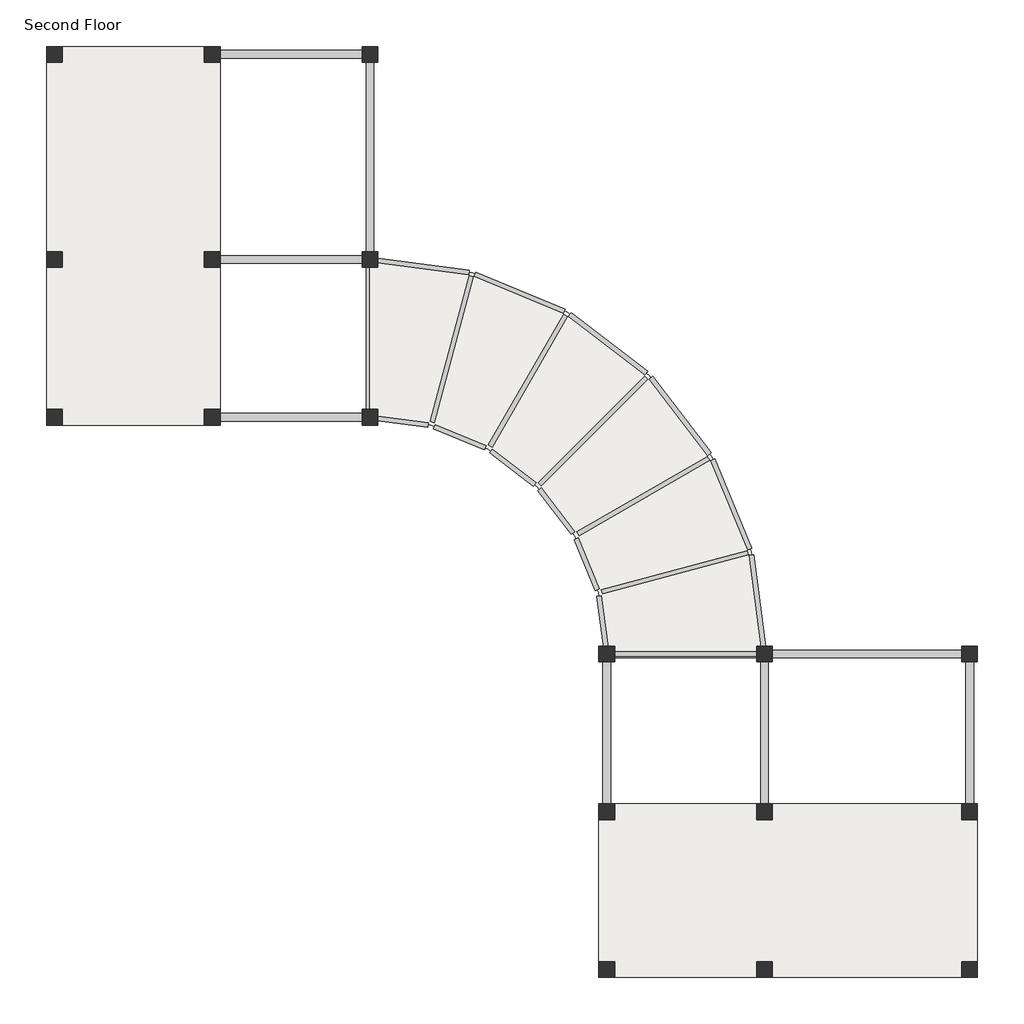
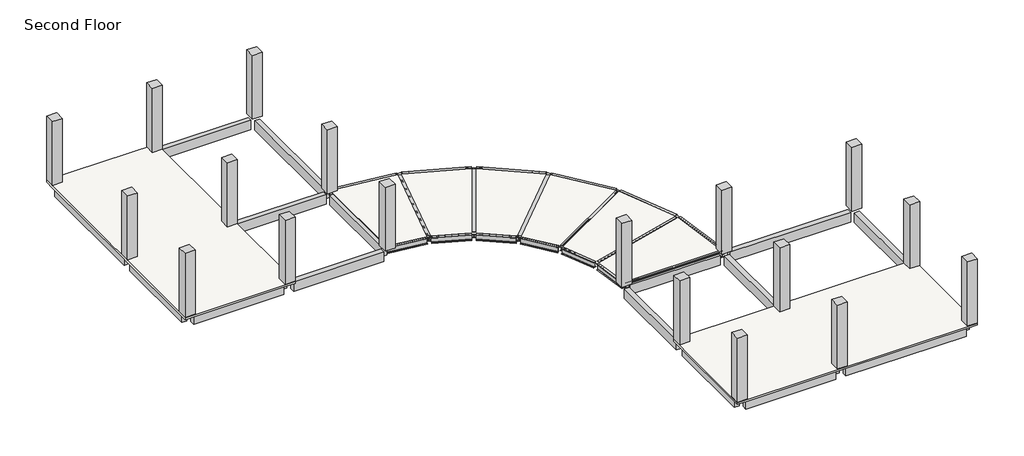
# One storey: 42 beams, 18 columns, 3 slabs.
"""IFC4 building model written with IfcOpenShell, lengths in millimetres."""

from ifc_helpers import new_model, si_unit, frame, origin, place, context, project, spatial, polyline, outline, extrude, faceted_brep, transform, mapped, element, save
from components import w_shapes_w14x30_2e673df6, w_shapes_w14x30_237460b9, w_shapes_w14x30_b3bb4f38, w_shapes_w14x30_39967a85, w_shapes_w14x30_db228dd3, w_shapes_w14x30_47131812, w_shapes_w14x30_3b95b5f1, w_shapes_w14x30_4b075543

model = new_model("IFC4")

# Units and contexts
model_context = context("Model", 3, world=origin())
ifc_project = project(units=[si_unit("LENGTHUNIT", "METRE", prefix="MILLI")], contexts=[model_context])

# Site, building, storey
site = spatial("IfcSite", under=ifc_project)
building = spatial("IfcBuilding", under=site)
storey = spatial("IfcBuildingStorey", under=building, Name="Second Floor", Elevation=3048.0)

# Beams
placement = place(None, origin())
element("IfcBeam", 1, ObjectType="Concrete-Rectangular Beam : 12 x 24", at=placement, inside=storey, context=model_context, shape_type="SweptSolid", body=[
    extrude(outline(polyline([(-28941.182411, 12026.6448777), (-28941.182411, 11721.8448777), (-34427.582411, 11721.8448777), (-34427.582411, 12026.6448777), (-28941.182411, 12026.6448777)])), frame((0.0, 0.0, 2438.4), z_axis=(0.0, 0.0, 1.0), x_axis=(1.0, 0.0, 0.0)), (0.0, 0.0, 1.0), 609.6),
])
element("IfcBeam", 2, ObjectType="Concrete-Rectangular Beam : 12 x 24", at=placement, inside=storey, context=model_context, shape_type="SweptSolid", body=[
    extrude(outline(polyline([(-35037.182411, 12026.6448777), (-35037.182411, 11721.8448777), (-40523.582411, 11721.8448777), (-40523.582411, 12026.6448777), (-35037.182411, 12026.6448777)])), frame((0.0, 0.0, 2438.4), z_axis=(0.0, 0.0, 1.0), x_axis=(1.0, 0.0, 0.0)), (0.0, 0.0, 1.0), 609.6),
])
element("IfcBeam", 3, ObjectType="Concrete-Rectangular Beam : 12 x 24", at=placement, inside=storey, context=model_context, shape_type="SweptSolid", body=[
    extrude(outline(polyline([(-28941.182411, -1994.1551223), (-28941.182411, -2298.9551223), (-34427.582411, -2298.9551223), (-34427.582411, -1994.1551223), (-28941.182411, -1994.1551223)])), frame((0.0, 0.0, 2438.4), z_axis=(0.0, 0.0, 1.0), x_axis=(1.0, 0.0, 0.0)), (0.0, 0.0, 1.0), 609.6),
])
element("IfcBeam", 4, ObjectType="Concrete-Rectangular Beam : 12 x 24", at=placement, inside=storey, context=model_context, shape_type="SweptSolid", body=[
    extrude(outline(polyline([(-35037.182411, -1994.1551223), (-35037.182411, -2298.9551223), (-40523.582411, -2298.9551223), (-40523.582411, -1994.1551223), (-35037.182411, -1994.1551223)])), frame((0.0, 0.0, 2438.4), z_axis=(0.0, 0.0, 1.0), x_axis=(1.0, 0.0, 0.0)), (0.0, 0.0, 1.0), 609.6),
])
element("IfcBeam", 5, ObjectType="Concrete-Rectangular Beam : 12 x 24", at=placement, inside=storey, context=model_context, shape_type="SweptSolid", body=[
    extrude(outline(polyline([(-28941.182411, 4101.8448777), (-28941.182411, 3797.0448777), (-34427.582411, 3797.0448777), (-34427.582411, 4101.8448777), (-28941.182411, 4101.8448777)])), frame((0.0, 0.0, 2438.4), z_axis=(0.0, 0.0, 1.0), x_axis=(1.0, 0.0, 0.0)), (0.0, 0.0, 1.0), 609.6),
])
element("IfcBeam", 6, ObjectType="Concrete-Rectangular Beam : 12 x 24", at=placement, inside=storey, context=model_context, shape_type="SweptSolid", body=[
    extrude(outline(polyline([(-35037.182411, 4101.8448777), (-35037.182411, 3797.0448777), (-40523.582411, 3797.0448777), (-40523.582411, 4101.8448777), (-35037.182411, 4101.8448777)])), frame((0.0, 0.0, 2438.4), z_axis=(0.0, 0.0, 1.0), x_axis=(1.0, 0.0, 0.0)), (0.0, 0.0, 1.0), 609.6),
])
element("IfcBeam", 7, ObjectType="Concrete-Rectangular Beam : 12 x 24", at=placement, inside=storey, context=model_context, shape_type="SweptSolid", body=[
    extrude(outline(polyline([(-28483.982411, -1841.7551223), (-28788.782411, -1841.7551223), (-28788.782411, 3644.6448777), (-28483.982411, 3644.6448777), (-28483.982411, -1841.7551223)])), frame((0.0, 0.0, 2438.4), z_axis=(0.0, 0.0, 1.0), x_axis=(1.0, 0.0, 0.0)), (0.0, 0.0, 1.0), 609.6),
])
element("IfcBeam", 8, ObjectType="Concrete-Rectangular Beam : 12 x 24", at=placement, inside=storey, context=model_context, shape_type="SweptSolid", body=[
    extrude(outline(polyline([(-28483.982411, 4254.2448777), (-28788.782411, 4254.2448777), (-28788.782411, 11569.4448777), (-28483.982411, 11569.4448777), (-28483.982411, 4254.2448777)])), frame((0.0, 0.0, 2438.4), z_axis=(0.0, 0.0, 1.0), x_axis=(1.0, 0.0, 0.0)), (0.0, 0.0, 1.0), 609.6),
])
element("IfcBeam", 9, ObjectType="Concrete-Rectangular Beam : 12 x 24", at=placement, inside=storey, context=model_context, shape_type="SweptSolid", body=[
    extrude(outline(polyline([(-34579.982411, 4254.2448777), (-34884.782411, 4254.2448777), (-34884.782411, 11569.4448777), (-34579.982411, 11569.4448777), (-34579.982411, 4254.2448777)])), frame((0.0, 0.0, 2438.4), z_axis=(0.0, 0.0, 1.0), x_axis=(1.0, 0.0, 0.0)), (0.0, 0.0, 1.0), 609.6),
])
element("IfcBeam", 10, ObjectType="Concrete-Rectangular Beam : 12 x 24", at=placement, inside=storey, context=model_context, shape_type="SweptSolid", body=[
    extrude(outline(polyline([(-34579.982411, -1841.7551223), (-34884.782411, -1841.7551223), (-34884.782411, 3644.6448777), (-34579.982411, 3644.6448777), (-34579.982411, -1841.7551223)])), frame((0.0, 0.0, 2438.4), z_axis=(0.0, 0.0, 1.0), x_axis=(1.0, 0.0, 0.0)), (0.0, 0.0, 1.0), 609.6),
])
element("IfcBeam", 11, ObjectType="Concrete-Rectangular Beam : 12 x 24", at=placement, inside=storey, context=model_context, shape_type="SweptSolid", body=[
    extrude(outline(polyline([(-40675.982411, 4254.2448777), (-40980.782411, 4254.2448777), (-40980.782411, 11569.4448777), (-40675.982411, 11569.4448777), (-40675.982411, 4254.2448777)])), frame((0.0, 0.0, 2438.4), z_axis=(0.0, 0.0, 1.0), x_axis=(1.0, 0.0, 0.0)), (0.0, 0.0, 1.0), 609.6),
])
element("IfcBeam", 12, ObjectType="Concrete-Rectangular Beam : 12 x 24", at=placement, inside=storey, context=model_context, shape_type="SweptSolid", body=[
    extrude(outline(polyline([(-40675.982411, -1841.7551223), (-40980.782411, -1841.7551223), (-40980.782411, 3644.6448777), (-40675.982411, 3644.6448777), (-40675.982411, -1841.7551223)])), frame((0.0, 0.0, 2438.4), z_axis=(0.0, 0.0, 1.0), x_axis=(1.0, 0.0, 0.0)), (0.0, 0.0, 1.0), 609.6),
])
element("IfcBeam", 13, ObjectType="Concrete-Rectangular Beam : 12 x 24", at=placement, inside=storey, context=model_context, shape_type="SweptSolid", body=[
    extrude(outline(polyline([(-5623.982411, -11595.3551223), (-5319.182411, -11595.3551223), (-5319.182411, -17081.7551223), (-5623.982411, -17081.7551223), (-5623.982411, -11595.3551223)])), frame((0.0, 0.0, 2438.4), z_axis=(0.0, 0.0, 1.0), x_axis=(1.0, 0.0, 0.0)), (0.0, 0.0, 1.0), 609.6),
])
element("IfcBeam", 14, ObjectType="Concrete-Rectangular Beam : 12 x 24", at=placement, inside=storey, context=model_context, shape_type="SweptSolid", body=[
    extrude(outline(polyline([(-5623.982411, -17691.3551223), (-5319.182411, -17691.3551223), (-5319.182411, -23177.7551223), (-5623.982411, -23177.7551223), (-5623.982411, -17691.3551223)])), frame((0.0, 0.0, 2438.4), z_axis=(0.0, 0.0, 1.0), x_axis=(1.0, 0.0, 0.0)), (0.0, 0.0, 1.0), 609.6),
])
element("IfcBeam", 15, ObjectType="Concrete-Rectangular Beam : 12 x 24", at=placement, inside=storey, context=model_context, shape_type="SweptSolid", body=[
    extrude(outline(polyline([(-19644.782411, -11595.3551223), (-19339.982411, -11595.3551223), (-19339.982411, -17081.7551223), (-19644.782411, -17081.7551223), (-19644.782411, -11595.3551223)])), frame((0.0, 0.0, 2438.4), z_axis=(0.0, 0.0, 1.0), x_axis=(1.0, 0.0, 0.0)), (0.0, 0.0, 1.0), 609.6),
])
element("IfcBeam", 16, ObjectType="Concrete-Rectangular Beam : 12 x 24", at=placement, inside=storey, context=model_context, shape_type="SweptSolid", body=[
    extrude(outline(polyline([(-19644.782411, -17691.3551223), (-19339.982411, -17691.3551223), (-19339.982411, -23177.7551223), (-19644.782411, -23177.7551223), (-19644.782411, -17691.3551223)])), frame((0.0, 0.0, 2438.4), z_axis=(0.0, 0.0, 1.0), x_axis=(1.0, 0.0, 0.0)), (0.0, 0.0, 1.0), 609.6),
])
element("IfcBeam", 17, ObjectType="Concrete-Rectangular Beam : 12 x 24", at=placement, inside=storey, context=model_context, shape_type="SweptSolid", body=[
    extrude(outline(polyline([(-13548.782411, -11595.3551223), (-13243.982411, -11595.3551223), (-13243.982411, -17081.7551223), (-13548.782411, -17081.7551223), (-13548.782411, -11595.3551223)])), frame((0.0, 0.0, 2438.4), z_axis=(0.0, 0.0, 1.0), x_axis=(1.0, 0.0, 0.0)), (0.0, 0.0, 1.0), 609.6),
])
element("IfcBeam", 18, ObjectType="Concrete-Rectangular Beam : 12 x 24", at=placement, inside=storey, context=model_context, shape_type="SweptSolid", body=[
    extrude(outline(polyline([(-13548.782411, -17691.3551223), (-13243.982411, -17691.3551223), (-13243.982411, -23177.7551223), (-13548.782411, -23177.7551223), (-13548.782411, -17691.3551223)])), frame((0.0, 0.0, 2438.4), z_axis=(0.0, 0.0, 1.0), x_axis=(1.0, 0.0, 0.0)), (0.0, 0.0, 1.0), 609.6),
])
element("IfcBeam", 19, ObjectType="Concrete-Rectangular Beam : 12 x 24", at=placement, inside=storey, context=model_context, shape_type="SweptSolid", body=[
    extrude(outline(polyline([(-19187.582411, -11442.9551223), (-19187.582411, -11138.1551223), (-13701.182411, -11138.1551223), (-13701.182411, -11442.9551223), (-19187.582411, -11442.9551223)])), frame((0.0, 0.0, 2438.4), z_axis=(0.0, 0.0, 1.0), x_axis=(1.0, 0.0, 0.0)), (0.0, 0.0, 1.0), 609.6),
])
element("IfcBeam", 20, ObjectType="Concrete-Rectangular Beam : 12 x 24", at=placement, inside=storey, context=model_context, shape_type="SweptSolid", body=[
    extrude(outline(polyline([(-13091.582411, -11442.9551223), (-13091.582411, -11138.1551223), (-5776.382411, -11138.1551223), (-5776.382411, -11442.9551223), (-13091.582411, -11442.9551223)])), frame((0.0, 0.0, 2438.4), z_axis=(0.0, 0.0, 1.0), x_axis=(1.0, 0.0, 0.0)), (0.0, 0.0, 1.0), 609.6),
])
element("IfcBeam", 21, ObjectType="Concrete-Rectangular Beam : 12 x 24", at=placement, inside=storey, context=model_context, shape_type="SweptSolid", body=[
    extrude(outline(polyline([(-13091.582411, -17538.9551223), (-13091.582411, -17234.1551223), (-5776.382411, -17234.1551223), (-5776.382411, -17538.9551223), (-13091.582411, -17538.9551223)])), frame((0.0, 0.0, 2438.4), z_axis=(0.0, 0.0, 1.0), x_axis=(1.0, 0.0, 0.0)), (0.0, 0.0, 1.0), 609.6),
])
element("IfcBeam", 22, ObjectType="Concrete-Rectangular Beam : 12 x 24", at=placement, inside=storey, context=model_context, shape_type="SweptSolid", body=[
    extrude(outline(polyline([(-19187.582411, -17538.9551223), (-19187.582411, -17234.1551223), (-13701.182411, -17234.1551223), (-13701.182411, -17538.9551223), (-19187.582411, -17538.9551223)])), frame((0.0, 0.0, 2438.4), z_axis=(0.0, 0.0, 1.0), x_axis=(1.0, 0.0, 0.0)), (0.0, 0.0, 1.0), 609.6),
])
element("IfcBeam", 23, ObjectType="Concrete-Rectangular Beam : 12 x 24", at=placement, inside=storey, context=model_context, shape_type="SweptSolid", body=[
    extrude(outline(polyline([(-13091.582411, -23634.9551223), (-13091.582411, -23330.1551223), (-5776.382411, -23330.1551223), (-5776.382411, -23634.9551223), (-13091.582411, -23634.9551223)])), frame((0.0, 0.0, 2438.4), z_axis=(0.0, 0.0, 1.0), x_axis=(1.0, 0.0, 0.0)), (0.0, 0.0, 1.0), 609.6),
])
element("IfcBeam", 24, ObjectType="Concrete-Rectangular Beam : 12 x 24", at=placement, inside=storey, context=model_context, shape_type="SweptSolid", body=[
    extrude(outline(polyline([(-19187.582411, -23634.9551223), (-19187.582411, -23330.1551223), (-13701.182411, -23330.1551223), (-13701.182411, -23634.9551223), (-19187.582411, -23634.9551223)])), frame((0.0, 0.0, 2438.4), z_axis=(0.0, 0.0, 1.0), x_axis=(1.0, 0.0, 0.0)), (0.0, 0.0, 1.0), 609.6),
])
w_shapes_w14x30_shape = w_shapes_w14x30_2e673df6(model_context)
element("IfcBeam", 25, ObjectType="W Shapes : W14X30", at=placement, inside=storey, context=model_context, shape_type="MappedRepresentation", body=[
    mapped(w_shapes_w14x30_shape, transform((-16444.382411, -11290.5551223, 2999.74), x_axis=(1.0, 0.0, 0.0), y_axis=(0.0, 1.0, 0.0), z_axis=(0.0, 0.0, 1.0))),
])
w_shapes_w14x30_2_shape = w_shapes_w14x30_237460b9(model_context)
element("IfcBeam", 26, ObjectType="W Shapes : W14X30", at=placement, inside=storey, context=model_context, shape_type="MappedRepresentation", body=[
    mapped(w_shapes_w14x30_2_shape, transform((-27453.0617368, -2302.3422445, 2999.74), x_axis=(0.9914448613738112, -0.13052619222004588, 0.0), y_axis=(0.13052619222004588, 0.9914448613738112, 0.0), z_axis=(0.0, 0.0, 1.0))),
])
w_shapes_w14x30_3_shape = w_shapes_w14x30_b3bb4f38(model_context)
element("IfcBeam", 27, ObjectType="W Shapes : W14X30", at=placement, inside=storey, context=model_context, shape_type="MappedRepresentation", body=[
    mapped(w_shapes_w14x30_3_shape, transform((-25167.0617368, -2914.8740984, 2999.74), x_axis=(0.9238795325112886, -0.3826834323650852, 0.0), y_axis=(0.3826834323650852, 0.9238795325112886, 0.0), z_axis=(0.0, 0.0, 1.0))),
])
element("IfcBeam", 28, ObjectType="W Shapes : W14X30", at=placement, inside=storey, context=model_context, shape_type="MappedRepresentation", body=[
    mapped(w_shapes_w14x30_3_shape, transform((-23117.4902074, -4098.1947726, 2999.74), x_axis=(0.7933533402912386, -0.6087614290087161, 0.0), y_axis=(0.6087614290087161, 0.7933533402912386, 0.0), z_axis=(0.0, 0.0, 1.0))),
])
element("IfcBeam", 29, ObjectType="W Shapes : W14X30", at=placement, inside=storey, context=model_context, shape_type="MappedRepresentation", body=[
    mapped(w_shapes_w14x30_3_shape, transform((-21444.0220613, -5771.6629187, 2999.74), x_axis=(0.6087614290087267, -0.7933533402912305, 0.0), y_axis=(0.7933533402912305, 0.6087614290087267, 0.0), z_axis=(0.0, 0.0, 1.0))),
])
element("IfcBeam", 30, ObjectType="W Shapes : W14X30", at=placement, inside=storey, context=model_context, shape_type="MappedRepresentation", body=[
    mapped(w_shapes_w14x30_3_shape, transform((-20260.7013871, -7821.2344481, 2999.74), x_axis=(0.38268343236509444, -0.9238795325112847, 0.0), y_axis=(0.9238795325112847, 0.38268343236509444, 0.0), z_axis=(0.0, 0.0, 1.0))),
])
w_shapes_w14x30_4_shape = w_shapes_w14x30_39967a85(model_context)
element("IfcBeam", 31, ObjectType="W Shapes : W14X30", at=placement, inside=storey, context=model_context, shape_type="MappedRepresentation", body=[
    mapped(w_shapes_w14x30_4_shape, transform((-19648.1695332, -10107.2344481, 2999.74), x_axis=(0.13052619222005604, -0.9914448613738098, 0.0), y_axis=(0.9914448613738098, 0.13052619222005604, 0.0), z_axis=(0.0, 0.0, 1.0))),
])
w_shapes_w14x30_5_shape = w_shapes_w14x30_db228dd3(model_context)
element("IfcBeam", 32, ObjectType="W Shapes : W14X30", at=placement, inside=storey, context=model_context, shape_type="MappedRepresentation", body=[
    mapped(w_shapes_w14x30_5_shape, transform((-26664.1812873, 3689.799674, 2999.74), x_axis=(0.9914448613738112, -0.1305261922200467, 0.0), y_axis=(0.1305261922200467, 0.9914448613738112, 0.0), z_axis=(0.0, 0.0, 1.0))),
])
w_shapes_w14x30_6_shape = w_shapes_w14x30_47131812(model_context)
element("IfcBeam", 33, ObjectType="W Shapes : W14X30", at=placement, inside=storey, context=model_context, shape_type="MappedRepresentation", body=[
    mapped(w_shapes_w14x30_6_shape, transform((-22854.1812873, 2668.9132509, 2999.74), x_axis=(0.9238795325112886, -0.38268343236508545, 0.0), y_axis=(0.38268343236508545, 0.9238795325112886, 0.0), z_axis=(0.0, 0.0, 1.0))),
])
element("IfcBeam", 34, ObjectType="W Shapes : W14X30", at=placement, inside=storey, context=model_context, shape_type="MappedRepresentation", body=[
    mapped(w_shapes_w14x30_6_shape, transform((-19438.2287383, 696.7121272, 2999.74), x_axis=(0.793353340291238, -0.6087614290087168, 0.0), y_axis=(0.6087614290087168, 0.793353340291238, 0.0), z_axis=(0.0, 0.0, 1.0))),
])
element("IfcBeam", 35, ObjectType="W Shapes : W14X30", at=placement, inside=storey, context=model_context, shape_type="MappedRepresentation", body=[
    mapped(w_shapes_w14x30_6_shape, transform((-16649.1151615, -2092.4014496, 2999.74), x_axis=(0.608761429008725, -0.7933533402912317, 0.0), y_axis=(0.7933533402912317, 0.608761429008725, 0.0), z_axis=(0.0, 0.0, 1.0))),
])
element("IfcBeam", 36, ObjectType="W Shapes : W14X30", at=placement, inside=storey, context=model_context, shape_type="MappedRepresentation", body=[
    mapped(w_shapes_w14x30_6_shape, transform((-14676.9140378, -5508.3539986, 2999.74), x_axis=(0.38268343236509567, -0.9238795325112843, 0.0), y_axis=(0.9238795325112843, 0.38268343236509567, 0.0), z_axis=(0.0, 0.0, 1.0))),
])
w_shapes_w14x30_7_shape = w_shapes_w14x30_3b95b5f1(model_context)
element("IfcBeam", 37, ObjectType="W Shapes : W14X30", at=placement, inside=storey, context=model_context, shape_type="MappedRepresentation", body=[
    mapped(w_shapes_w14x30_7_shape, transform((-13656.0276147, -9318.3539986, 2999.74), x_axis=(0.13052619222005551, -0.9914448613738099, 0.0), y_axis=(0.9914448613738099, 0.13052619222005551, 0.0), z_axis=(0.0, 0.0, 1.0))),
])
w_shapes_w14x30_8_shape = w_shapes_w14x30_4b075543(model_context)
element("IfcBeam", 38, ObjectType="W Shapes : W14X30", at=placement, inside=storey, context=model_context, shape_type="MappedRepresentation", body=[
    mapped(w_shapes_w14x30_8_shape, transform((-16859.8147369, -8135.0333244, 2999.74), x_axis=(0.9659258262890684, 0.2588190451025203, 0.0), y_axis=(-0.2588190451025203, 0.9659258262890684, 0.0), z_axis=(0.0, 0.0, 1.0))),
])
element("IfcBeam", 39, ObjectType="W Shapes : W14X30", at=placement, inside=storey, context=model_context, shape_type="MappedRepresentation", body=[
    mapped(w_shapes_w14x30_8_shape, transform((-18077.800688, -5194.5551223, 2999.74), x_axis=(0.8660254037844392, 0.4999999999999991, 0.0), y_axis=(-0.4999999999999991, 0.8660254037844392, 0.0), z_axis=(0.0, 0.0, 1.0))),
])
element("IfcBeam", 40, ObjectType="W Shapes : W14X30", at=placement, inside=storey, context=model_context, shape_type="MappedRepresentation", body=[
    mapped(w_shapes_w14x30_8_shape, transform((-20015.3365348, -2669.5092461, 2999.74), x_axis=(0.7071067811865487, 0.7071067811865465, 0.0), y_axis=(-0.7071067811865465, 0.7071067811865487, 0.0), z_axis=(0.0, 0.0, 1.0))),
])
element("IfcBeam", 41, ObjectType="W Shapes : W14X30", at=placement, inside=storey, context=model_context, shape_type="MappedRepresentation", body=[
    mapped(w_shapes_w14x30_8_shape, transform((-22540.382411, -731.9733993, 2999.74), x_axis=(0.5000000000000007, 0.8660254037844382, 0.0), y_axis=(-0.8660254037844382, 0.5000000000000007, 0.0), z_axis=(0.0, 0.0, 1.0))),
])
element("IfcBeam", 42, ObjectType="W Shapes : W14X30", at=placement, inside=storey, context=model_context, shape_type="MappedRepresentation", body=[
    mapped(w_shapes_w14x30_8_shape, transform((-25480.8606131, 486.0125518, 2999.74), x_axis=(0.2588190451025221, 0.9659258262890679, 0.0), y_axis=(-0.9659258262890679, 0.2588190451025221, 0.0), z_axis=(0.0, 0.0, 1.0))),
])

# Columns
element("IfcColumn", 43, ObjectType="Concrete-Rectangular-Column : 24 x 24", at=placement, inside=storey, context=model_context, shape_type="SweptSolid", body=[
    extrude(outline(polyline([(-28331.582411, -1841.7551223), (-28331.582411, -2451.3551223), (-28941.182411, -2451.3551223), (-28941.182411, -1841.7551223), (-28331.582411, -1841.7551223)])), frame((0.0, 0.0, 3200.4), z_axis=(0.0, 0.0, 1.0), x_axis=(1.0, 0.0, 0.0)), (0.0, 0.0, 1.0), 4114.8),
])
element("IfcColumn", 44, ObjectType="Concrete-Rectangular-Column : 24 x 24", at=placement, inside=storey, context=model_context, shape_type="SweptSolid", body=[
    extrude(outline(polyline([(-28331.582411, 4254.2448777), (-28331.582411, 3644.6448777), (-28941.182411, 3644.6448777), (-28941.182411, 4254.2448777), (-28331.582411, 4254.2448777)])), frame((0.0, 0.0, 3200.4), z_axis=(0.0, 0.0, 1.0), x_axis=(1.0, 0.0, 0.0)), (0.0, 0.0, 1.0), 4114.8),
])
element("IfcColumn", 45, ObjectType="Concrete-Rectangular-Column : 24 x 24", at=placement, inside=storey, context=model_context, shape_type="SweptSolid", body=[
    extrude(outline(polyline([(-35037.182411, -2451.3551223), (-35037.182411, -1841.7551223), (-34427.582411, -1841.7551223), (-34427.582411, -2451.3551223), (-35037.182411, -2451.3551223)])), frame((0.0, 0.0, 3200.4), z_axis=(0.0, 0.0, 1.0), x_axis=(1.0, 0.0, 0.0)), (0.0, 0.0, 1.0), 4114.8),
])
element("IfcColumn", 46, ObjectType="Concrete-Rectangular-Column : 24 x 24", at=placement, inside=storey, context=model_context, shape_type="SweptSolid", body=[
    extrude(outline(polyline([(-35037.182411, 3644.6448777), (-35037.182411, 4254.2448777), (-34427.582411, 4254.2448777), (-34427.582411, 3644.6448777), (-35037.182411, 3644.6448777)])), frame((0.0, 0.0, 3200.4), z_axis=(0.0, 0.0, 1.0), x_axis=(1.0, 0.0, 0.0)), (0.0, 0.0, 1.0), 4114.8),
])
element("IfcColumn", 47, ObjectType="Concrete-Rectangular-Column : 24 x 24", at=placement, inside=storey, context=model_context, shape_type="SweptSolid", body=[
    extrude(outline(polyline([(-41133.182411, -2451.3551223), (-41133.182411, -1841.7551223), (-40523.582411, -1841.7551223), (-40523.582411, -2451.3551223), (-41133.182411, -2451.3551223)])), frame((0.0, 0.0, 3200.4), z_axis=(0.0, 0.0, 1.0), x_axis=(1.0, 0.0, 0.0)), (0.0, 0.0, 1.0), 4114.8),
])
element("IfcColumn", 48, ObjectType="Concrete-Rectangular-Column : 24 x 24", at=placement, inside=storey, context=model_context, shape_type="SweptSolid", body=[
    extrude(outline(polyline([(-41133.182411, 3644.6448777), (-41133.182411, 4254.2448777), (-40523.582411, 4254.2448777), (-40523.582411, 3644.6448777), (-41133.182411, 3644.6448777)])), frame((0.0, 0.0, 3200.4), z_axis=(0.0, 0.0, 1.0), x_axis=(1.0, 0.0, 0.0)), (0.0, 0.0, 1.0), 4114.8),
])
element("IfcColumn", 49, ObjectType="Concrete-Rectangular-Column : 24 x 24", at=placement, inside=storey, context=model_context, shape_type="SweptSolid", body=[
    extrude(outline(polyline([(-28941.182411, 11569.4448777), (-28941.182411, 12179.0448777), (-28331.582411, 12179.0448777), (-28331.582411, 11569.4448777), (-28941.182411, 11569.4448777)])), frame((0.0, 0.0, 3200.4), z_axis=(0.0, 0.0, 1.0), x_axis=(1.0, 0.0, 0.0)), (0.0, 0.0, 1.0), 4114.8),
])
element("IfcColumn", 50, ObjectType="Concrete-Rectangular-Column : 24 x 24", at=placement, inside=storey, context=model_context, shape_type="SweptSolid", body=[
    extrude(outline(polyline([(-35037.182411, 11569.4448777), (-35037.182411, 12179.0448777), (-34427.582411, 12179.0448777), (-34427.582411, 11569.4448777), (-35037.182411, 11569.4448777)])), frame((0.0, 0.0, 3200.4), z_axis=(0.0, 0.0, 1.0), x_axis=(1.0, 0.0, 0.0)), (0.0, 0.0, 1.0), 4114.8),
])
element("IfcColumn", 51, ObjectType="Concrete-Rectangular-Column : 24 x 24", at=placement, inside=storey, context=model_context, shape_type="SweptSolid", body=[
    extrude(outline(polyline([(-41133.182411, 11569.4448777), (-41133.182411, 12179.0448777), (-40523.582411, 12179.0448777), (-40523.582411, 11569.4448777), (-41133.182411, 11569.4448777)])), frame((0.0, 0.0, 3200.4), z_axis=(0.0, 0.0, 1.0), x_axis=(1.0, 0.0, 0.0)), (0.0, 0.0, 1.0), 4114.8),
])
element("IfcColumn", 52, ObjectType="Concrete-Rectangular-Column : 24 x 24", at=placement, inside=storey, context=model_context, shape_type="SweptSolid", body=[
    extrude(outline(polyline([(-19187.582411, -10985.7551223), (-19187.582411, -11595.3551223), (-19797.182411, -11595.3551223), (-19797.182411, -10985.7551223), (-19187.582411, -10985.7551223)])), frame((0.0, 0.0, 3200.4), z_axis=(0.0, 0.0, 1.0), x_axis=(1.0, 0.0, 0.0)), (0.0, 0.0, 1.0), 4114.8),
])
element("IfcColumn", 53, ObjectType="Concrete-Rectangular-Column : 24 x 24", at=placement, inside=storey, context=model_context, shape_type="SweptSolid", body=[
    extrude(outline(polyline([(-13091.582411, -10985.7551223), (-13091.582411, -11595.3551223), (-13701.182411, -11595.3551223), (-13701.182411, -10985.7551223), (-13091.582411, -10985.7551223)])), frame((0.0, 0.0, 3200.4), z_axis=(0.0, 0.0, 1.0), x_axis=(1.0, 0.0, 0.0)), (0.0, 0.0, 1.0), 4114.8),
])
element("IfcColumn", 54, ObjectType="Concrete-Rectangular-Column : 24 x 24", at=placement, inside=storey, context=model_context, shape_type="SweptSolid", body=[
    extrude(outline(polyline([(-19797.182411, -17691.3551223), (-19797.182411, -17081.7551223), (-19187.582411, -17081.7551223), (-19187.582411, -17691.3551223), (-19797.182411, -17691.3551223)])), frame((0.0, 0.0, 3200.4), z_axis=(0.0, 0.0, 1.0), x_axis=(1.0, 0.0, 0.0)), (0.0, 0.0, 1.0), 4114.8),
])
element("IfcColumn", 55, ObjectType="Concrete-Rectangular-Column : 24 x 24", at=placement, inside=storey, context=model_context, shape_type="SweptSolid", body=[
    extrude(outline(polyline([(-13701.182411, -17691.3551223), (-13701.182411, -17081.7551223), (-13091.582411, -17081.7551223), (-13091.582411, -17691.3551223), (-13701.182411, -17691.3551223)])), frame((0.0, 0.0, 3200.4), z_axis=(0.0, 0.0, 1.0), x_axis=(1.0, 0.0, 0.0)), (0.0, 0.0, 1.0), 4114.8),
])
element("IfcColumn", 56, ObjectType="Concrete-Rectangular-Column : 24 x 24", at=placement, inside=storey, context=model_context, shape_type="SweptSolid", body=[
    extrude(outline(polyline([(-19797.182411, -23787.3551223), (-19797.182411, -23177.7551223), (-19187.582411, -23177.7551223), (-19187.582411, -23787.3551223), (-19797.182411, -23787.3551223)])), frame((0.0, 0.0, 3200.4), z_axis=(0.0, 0.0, 1.0), x_axis=(1.0, 0.0, 0.0)), (0.0, 0.0, 1.0), 4114.8),
])
element("IfcColumn", 57, ObjectType="Concrete-Rectangular-Column : 24 x 24", at=placement, inside=storey, context=model_context, shape_type="SweptSolid", body=[
    extrude(outline(polyline([(-13701.182411, -23787.3551223), (-13701.182411, -23177.7551223), (-13091.582411, -23177.7551223), (-13091.582411, -23787.3551223), (-13701.182411, -23787.3551223)])), frame((0.0, 0.0, 3200.4), z_axis=(0.0, 0.0, 1.0), x_axis=(1.0, 0.0, 0.0)), (0.0, 0.0, 1.0), 4114.8),
])
element("IfcColumn", 58, ObjectType="Concrete-Rectangular-Column : 24 x 24", at=placement, inside=storey, context=model_context, shape_type="SweptSolid", body=[
    extrude(outline(polyline([(-5776.382411, -11595.3551223), (-5776.382411, -10985.7551223), (-5166.782411, -10985.7551223), (-5166.782411, -11595.3551223), (-5776.382411, -11595.3551223)])), frame((0.0, 0.0, 3200.4), z_axis=(0.0, 0.0, 1.0), x_axis=(1.0, 0.0, 0.0)), (0.0, 0.0, 1.0), 4114.8),
])
element("IfcColumn", 59, ObjectType="Concrete-Rectangular-Column : 24 x 24", at=placement, inside=storey, context=model_context, shape_type="SweptSolid", body=[
    extrude(outline(polyline([(-5776.382411, -17691.3551223), (-5776.382411, -17081.7551223), (-5166.782411, -17081.7551223), (-5166.782411, -17691.3551223), (-5776.382411, -17691.3551223)])), frame((0.0, 0.0, 3200.4), z_axis=(0.0, 0.0, 1.0), x_axis=(1.0, 0.0, 0.0)), (0.0, 0.0, 1.0), 4114.8),
])
element("IfcColumn", 60, ObjectType="Concrete-Rectangular-Column : 24 x 24", at=placement, inside=storey, context=model_context, shape_type="SweptSolid", body=[
    extrude(outline(polyline([(-5776.382411, -23787.3551223), (-5776.382411, -23177.7551223), (-5166.782411, -23177.7551223), (-5166.782411, -23787.3551223), (-5776.382411, -23787.3551223)])), frame((0.0, 0.0, 3200.4), z_axis=(0.0, 0.0, 1.0), x_axis=(1.0, 0.0, 0.0)), (0.0, 0.0, 1.0), 4114.8),
])

# Slabs
element("IfcSlab", 61, ObjectType="1 1/2\" Metal Roof Deck", at=placement, inside=storey, context=model_context, shape_type="SweptSolid", body=[
    extrude(outline(polyline([(-28636.382411, 3949.4448777), (-24691.9801636, 3430.1544704), (-21016.382411, 1907.6720314), (-17860.0750657, -514.247777), (-15438.1552573, -3670.5551223), (-13915.6728183, -7346.1528749), (-13396.382411, -11290.5551223), (-19492.382411, -11290.5551223), (-19803.9566554, -8923.9137739), (-20717.4461188, -6718.5551223), (-22170.5980038, -4824.7707151), (-24064.382411, -3371.6188301), (-26269.7410626, -2458.1293667), (-28636.382411, -2146.5551223), (-28636.382411, 3949.4448777)])), frame((0.0, 0.0, 3130.55), z_axis=(0.0, 0.0, 1.0), x_axis=(1.0, 0.0, 0.0)), (0.0, 0.0, 1.0), 38.1),
])
element("IfcSlab", 62, ObjectType="LW Concrete on Metal Deck", at=placement, inside=storey, context=model_context, shape_type="Brep", body=[
    faceted_brep([(-34427.582411, 12179.0448777, 3048.0), (-34427.582411, 11569.4448777, 3048.0), (-34427.582411, 4254.2448777, 3048.0), (-34427.582411, 3644.6448777, 3048.0), (-34427.582411, -1841.7551223, 3048.0), (-34427.582411, -2451.3551223, 3048.0), (-35037.182411, -2451.3551223, 3048.0), (-40523.582411, -2451.3551223, 3048.0), (-41133.182411, -2451.3551223, 3048.0), (-41133.182411, -1841.7551223, 3048.0), (-41133.182411, 3644.6448777, 3048.0), (-41133.182411, 4254.2448777, 3048.0), (-41133.182411, 11569.4448777, 3048.0), (-41133.182411, 12179.0448777, 3048.0), (-40523.582411, 12179.0448777, 3048.0), (-35037.182411, 12179.0448777, 3048.0), (-34427.582411, 12179.0448777, 3168.65), (-41133.182411, 12179.0448777, 3168.65), (-41133.182411, -2451.3551223, 3168.65), (-34427.582411, -2451.3551223, 3168.65)], [[[0, 1, 2, 3, 4, 5, 6, 7, 8, 9, 10, 11, 12, 13, 14, 15]], [[16, 17, 18, 19]], [[5, 4, 3, 2, 1, 0, 16, 19]], [[8, 7, 6, 5, 19, 18]], [[13, 12, 11, 10, 9, 8, 18, 17]], [[0, 15, 14, 13, 17, 16]]]),
])
element("IfcSlab", 63, ObjectType="LW Concrete on Metal Deck", at=placement, inside=storey, context=model_context, shape_type="Brep", body=[
    faceted_brep([(-5166.782411, -17081.7551223, 3048.0), (-5166.782411, -17691.3551223, 3048.0), (-5166.782411, -23177.7551223, 3048.0), (-5166.782411, -23787.3551223, 3048.0), (-5776.382411, -23787.3551223, 3048.0), (-13091.582411, -23787.3551223, 3048.0), (-13701.182411, -23787.3551223, 3048.0), (-19187.582411, -23787.3551223, 3048.0), (-19797.182411, -23787.3551223, 3048.0), (-19797.182411, -23177.7551223, 3048.0), (-19797.182411, -17691.3551223, 3048.0), (-19797.182411, -17081.7551223, 3048.0), (-19187.582411, -17081.7551223, 3048.0), (-13701.182411, -17081.7551223, 3048.0), (-13091.582411, -17081.7551223, 3048.0), (-5776.382411, -17081.7551223, 3048.0), (-5166.782411, -17081.7551223, 3168.65), (-19797.182411, -17081.7551223, 3168.65), (-19797.182411, -23787.3551223, 3168.65), (-5166.782411, -23787.3551223, 3168.65)], [[[0, 1, 2, 3, 4, 5, 6, 7, 8, 9, 10, 11, 12, 13, 14, 15]], [[16, 17, 18, 19]], [[0, 15, 14, 13, 12, 11, 17, 16]], [[11, 10, 9, 8, 18, 17]], [[8, 7, 6, 5, 4, 3, 19, 18]], [[3, 2, 1, 0, 16, 19]]]),
])

save(model, "model.ifc")
